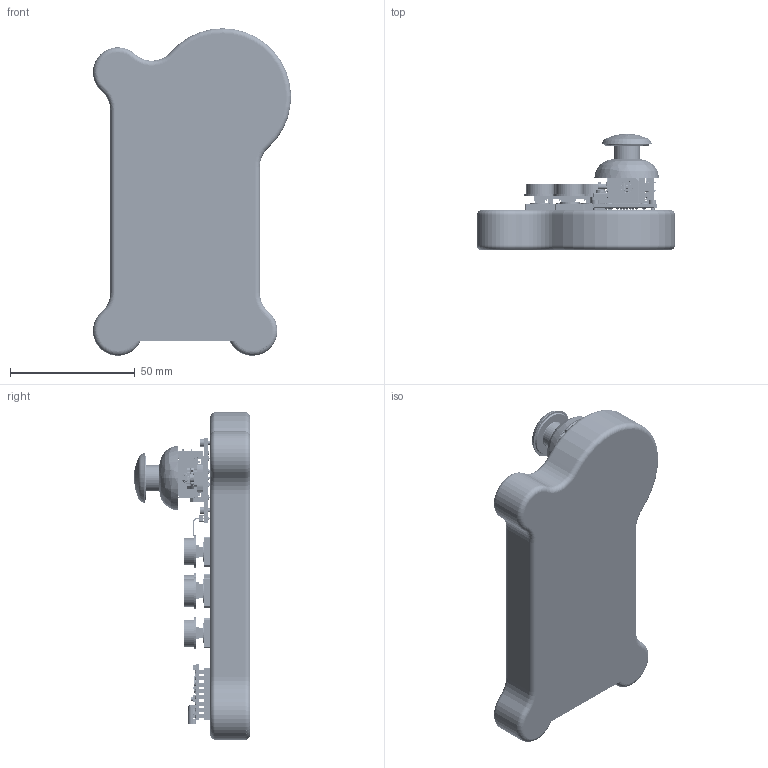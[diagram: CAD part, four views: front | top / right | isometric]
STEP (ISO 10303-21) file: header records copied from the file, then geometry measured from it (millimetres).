
FILE_DESCRIPTION(/* description */ ('','CAx-IF Rec.Pracs.---Representation and Presentation of Product Manufacturing Information (PMI)---4.0---2014-10-13'),/* implementation_level */ '2;1');
FILE_NAME(/* name */ 'esp32_c3_smini_controller_mini_2.stp',/* time_stamp */ '2026-06-08T19:22:57+02:00',/* author */ ('R5800u'),/* organization */ (''),/* preprocessor_version */ 'ST-DEVELOPER v20',/* originating_system */ 'Autodesk Inventor 2025',/* authorisation */ '');
FILE_SCHEMA (('AP242_MANAGED_MODEL_BASED_3D_ENGINEERING_MIM_LF { 1 0 10303 442 1 1 4 }'));
Products named in the file (58): esp32_c3_smini_scatola; Half-Size Breadboard; Main Half-Size Board; Half-Size Side Rail; scatola_esp32_c3_mini2; Button 4 pins assembly; socket button; button; BS 4168 - M1,6 x 6; batteria; KY-023_assy; ESP32-C3 sm with expansion board; ESP32-C3 Super Mini breakout expansion board mo; ESP32-C3-SuperMini; 2025-08-30-17-43-03-298; 2025-08-30-17-43-03-305; 2025-08-30-17-43-03-307; 2025-08-30-17-43-03-312; 2025-08-30-17-43-03-328; 2025-08-30-17-43-03-327; 2025-08-30-17-43-03-327_1; 2025-08-30-17-43-03-327_2; 2025-08-30-17-43-03-327_3; 2025-08-30-17-43-03-327_4; 2025-08-30-17-43-03-327_5; 2025-08-30-17-43-03-342; 2025-08-30-17-43-03-357; 2025-08-30-17-43-03-358; 2025-08-30-17-43-03-365; 2025-08-30-17-43-03-333; 2025-08-30-17-43-03-333_1; 2025-08-30-17-43-03-333_2; 2025-08-30-17-43-03-333_3; 2025-08-30-17-43-03-333_4; 2025-08-30-17-43-03-333_5; 2025-08-30-17-43-03-333_6; 2025-08-30-17-43-03-333_7; 2025-08-30-17-43-03-333_8; 2025-08-30-17-43-03-340; 2025-08-30-17-43-03-339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
Assembly tree (105 placements, depth 7):
  esp32_c3_smini_scatola
    Half-Size Breadboard
      Main Half-Size Board
      Half-Size Side Rail  x2
    scatola_esp32_c3_mini2
    Button 4 pins assembly  x4
      socket button
      button
    BS 4168 - M1,6 x 6  x3
    batteria
    KY-023_assy
    ESP32-C3 sm with expansion board
      ESP32-C3 Super Mini breakout expansion board mo
      ESP32-C3-SuperMini
        2025-08-30-17-43-03-298
        2025-08-30-17-43-03-305
        2025-08-30-17-43-03-307
        2025-08-30-17-43-03-312
        2025-08-30-17-43-03-328
          2025-08-30-17-43-03-327
            2025-08-30-17-43-03-327_1
            2025-08-30-17-43-03-327_2
            2025-08-30-17-43-03-327_3
            2025-08-30-17-43-03-327_4
            2025-08-30-17-43-03-327_5
        2025-08-30-17-43-03-342
        2025-08-30-17-43-03-357
        2025-08-30-17-43-03-358
        2025-08-30-17-43-03-365
          2025-08-30-17-43-03-333
            2025-08-30-17-43-03-333_1
              2025-08-30-17-43-03-333_6
              2025-08-30-17-43-03-333_7
              2025-08-30-17-43-03-333_8
          2025-08-30-17-43-03-330  x20
          2025-08-30-17-43-03-333_2
            2025-08-30-17-43-03-333_3
              2025-08-30-17-43-03-333_6
              2025-08-30-17-43-03-333_7
              2025-08-30-17-43-03-333_8
          2025-08-30-17-43-03-333_4
            2025-08-30-17-43-03-333_5
              2025-08-30-17-43-03-333_6
              2025-08-30-17-43-03-333_7
              2025-08-30-17-43-03-333_8
          2025-08-30-17-43-03-340
            2025-08-30-17-43-03-339
            2025-08-30-17-43-03-339_1
            2025-08-30-17-43-03-339_2
            2025-08-30-17-43-03-340_1
        2025-08-30-17-43-03-448
          2025-08-30-17-43-03-323  x2
            2025-08-30-17-43-03-322
              2025-08-30-17-43-03-321
              2025-08-30-17-43-03-321_1
              2025-08-30-17-43-03-321_2
              2025-08-30-17-43-03-322_1
              2025-08-30-17-43-03-322_2
              2025-08-30-17-43-03-322_3
              2025-08-30-17-43-03-322_4
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Bounding box: 79.49 x 46.7 x 131.35 mm (x, y, z)
Volume: 118421.4 mm3; surface area: 75630.7 mm2
Topology: 358 solids, 442 shells, 17174 faces, 45156 edges, 28988 vertices
Faces by surface type: plane 10697, bspline 3058, cylinder 2541, sphere 368, torus 334, cone 176
Full cylindrical faces by diameter (mm): 0.25 x1, 0.269 x1, 0.3 x1, 0.5 x16, 0.6 x2, 0.8 x1, 0.859 x48, 1.2 x1, 1.6 x3, 1.665 x32, 1.8 x9, 1.85 x1, 1.9 x9, 2 x10, 2.1 x2, 2.8 x1, 3 x7, 3.5 x1, 3.6 x1, 3.8 x2, 5.2 x2, 5.8 x1, 6.2 x2, 7 x1, 8 x6, 9 x1, 10.6 x1, 11 x4, 12 x1, 13 x4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
Entity records: 456229 total; most frequent: CARTESIAN_POINT 121018, ORIENTED_EDGE 70128, DIRECTION 63064, EDGE_CURVE 35232, LINE 25678, VECTOR 25678, VERTEX_POINT 22807, AXIS2_PLACEMENT_3D 18693
